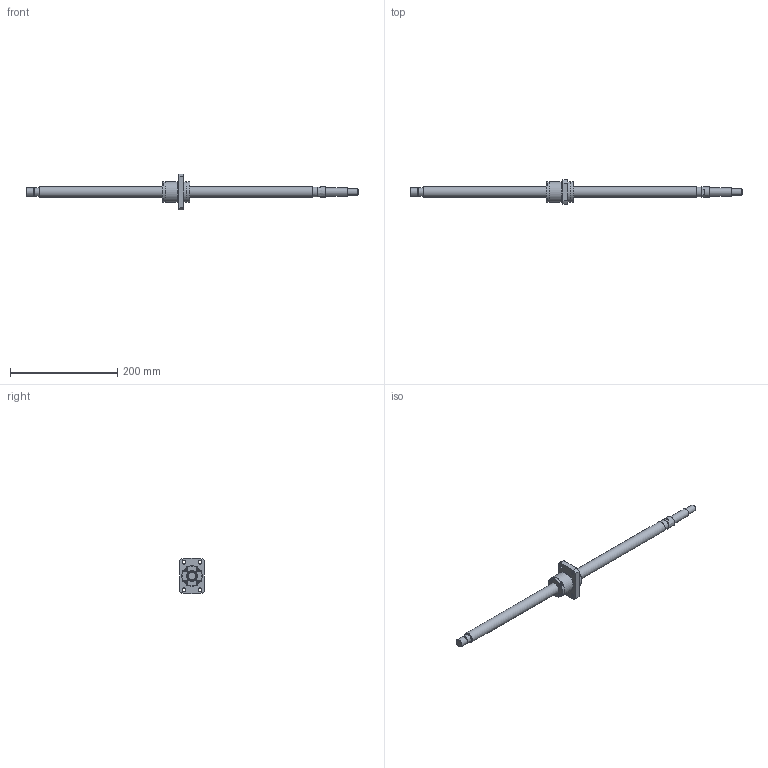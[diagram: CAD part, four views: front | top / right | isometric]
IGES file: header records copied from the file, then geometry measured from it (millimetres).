
Start section: Data from Parasolid IGES Translator 26.0.171, Copyright(c) 2006 Siemens PLM Software. All Rights Reserved.
Global section: file name: BNK2020-3.6G0+620LC5Y(2810).igs; native system: By Siemens PLM Incorporated; preprocessor: XPlus GENERIC/IGES 26.0.171; author: Noname; organization: Noname; date: 20240709.094004; units: millimetre
Bounding box: 620 x 46 x 66 mm (x, y, z)
Surface area: 55648.3 mm2 (no closed solid volume)
Topology: 0 solids, 0 shells, 139 faces, 643 edges, 578 vertices
Faces by surface type: extrusion 75, revolution 64
